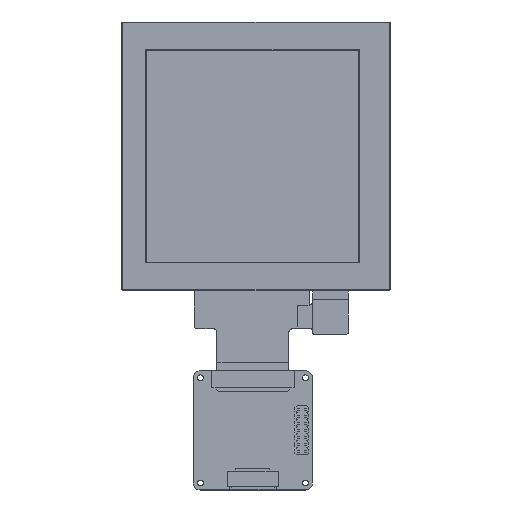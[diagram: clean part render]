
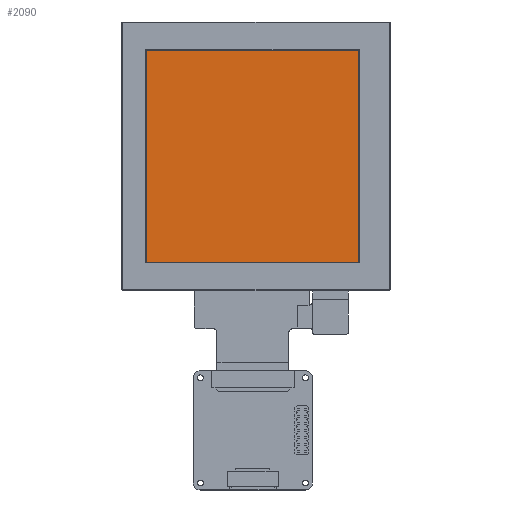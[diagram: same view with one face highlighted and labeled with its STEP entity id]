
A CAD part, top view. The second image highlights one B-rep face of the part: STEP entity #2090.
In plain terms, the highlighted planar face has unit normal (0, 0, 1).
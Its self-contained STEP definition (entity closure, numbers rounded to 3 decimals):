
#1304=DIRECTION('',(0.,-1.,0.));
#1305=VECTOR('',#1304,60.48);
#1306=CARTESIAN_POINT('',(29.185,31.26,3.02));
#1307=LINE('',#1306,#1305);
#1308=DIRECTION('',(1.,0.,0.));
#1309=VECTOR('',#1308,60.48);
#1310=CARTESIAN_POINT('',(-31.295,31.26,3.02));
#1311=LINE('',#1310,#1309);
#1312=DIRECTION('',(0.,1.,0.));
#1313=VECTOR('',#1312,60.48);
#1314=CARTESIAN_POINT('',(-31.295,-29.22,3.02));
#1315=LINE('',#1314,#1313);
#1316=DIRECTION('',(-1.,0.,0.));
#1317=VECTOR('',#1316,60.48);
#1318=CARTESIAN_POINT('',(29.185,-29.22,3.02));
#1319=LINE('',#1318,#1317);
#1424=CARTESIAN_POINT('',(29.185,31.26,3.02));
#1425=CARTESIAN_POINT('',(29.185,-29.22,3.02));
#1426=VERTEX_POINT('',#1424);
#1427=VERTEX_POINT('',#1425);
#1428=CARTESIAN_POINT('',(-31.295,-29.22,3.02));
#1429=VERTEX_POINT('',#1428);
#1430=CARTESIAN_POINT('',(-31.295,31.26,3.02));
#1431=VERTEX_POINT('',#1430);
#2079=CARTESIAN_POINT('',(-0.045,1.02,3.02));
#2080=DIRECTION('',(0.,0.,1.));
#2081=DIRECTION('',(1.,0.,0.));
#2082=AXIS2_PLACEMENT_3D('',#2079,#2080,#2081);
#2083=PLANE('',#2082);
#2084=ORIENTED_EDGE('',*,*,#2061,.T.);
#2085=ORIENTED_EDGE('',*,*,#2067,.T.);
#2086=ORIENTED_EDGE('',*,*,#2065,.T.);
#2087=ORIENTED_EDGE('',*,*,#2063,.T.);
#2088=EDGE_LOOP('',(#2084,#2085,#2086,#2087));
#2089=FACE_OUTER_BOUND('',#2088,.F.);
#2061=EDGE_CURVE('',#1426,#1427,#1307,.T.);
#2063=EDGE_CURVE('',#1431,#1426,#1311,.T.);
#2065=EDGE_CURVE('',#1429,#1431,#1315,.T.);
#2067=EDGE_CURVE('',#1427,#1429,#1319,.T.);
#2090=ADVANCED_FACE('',(#2089),#2083,.T.);
